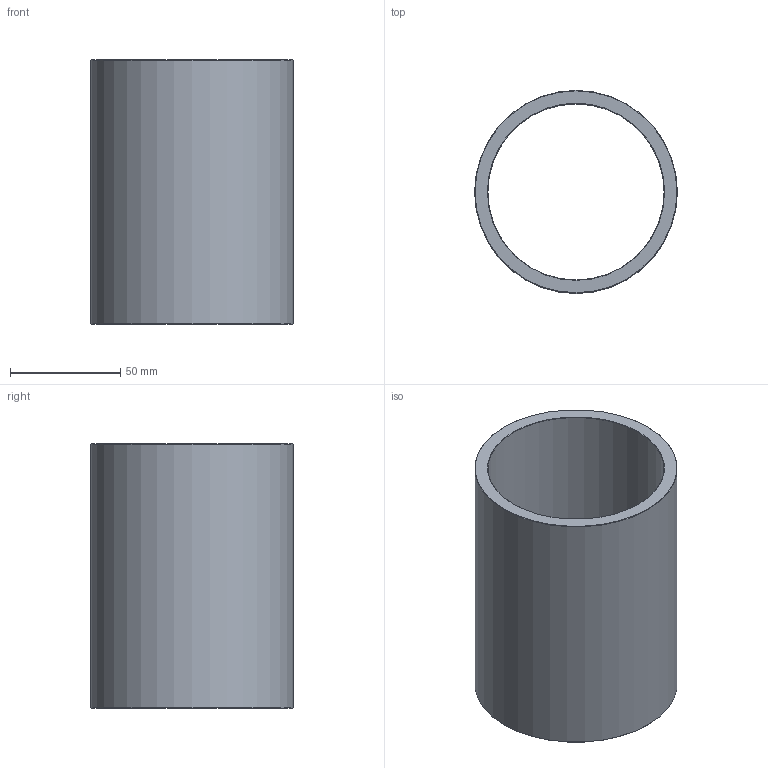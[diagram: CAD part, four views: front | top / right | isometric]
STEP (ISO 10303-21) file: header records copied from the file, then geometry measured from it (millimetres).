
FILE_DESCRIPTION(('STEP AP203'),'1');
FILE_NAME('C:/Users/Rodrigo/Desktop/GA6.080.120-1.step','2016-11-09T14:10:37',(' '),(' '),'Spatial InterOp 3D',' ',' ');
FILE_SCHEMA(('CONFIG_CONTROL_DESIGN'));
Length unit declared in the file: millimetre
Products named in the file (1): 1
Bounding box: 92 x 92 x 120 mm (x, y, z)
Volume: 194505.8 mm3; surface area: 67958 mm2
Topology: 1 solids, 1 shells, 8 faces, 14 edges, 8 vertices
Faces by surface type: cone 4, cylinder 2, plane 2
Full cylindrical faces by diameter (mm): 80 x1, 92 x1
Entity records: 212 total; most frequent: DIRECTION 34, CARTESIAN_POINT 25, AXIS2_PLACEMENT_3D 17, EDGE_LOOP 16, ORIENTED_EDGE 16, FACE_OUTER_BOUND 10, ADVANCED_FACE 8, EDGE_CURVE 8
